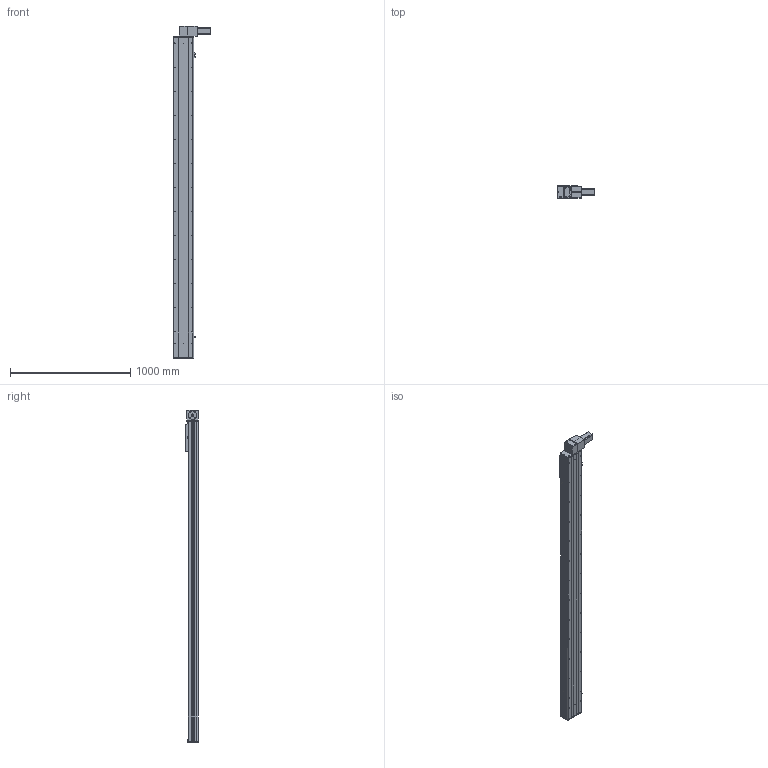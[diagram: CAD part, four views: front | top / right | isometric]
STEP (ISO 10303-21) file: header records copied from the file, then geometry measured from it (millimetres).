
FILE_DESCRIPTION (( 'STEP AP203' ), '1' );
FILE_NAME ('Y170CB-D105-S2350-BD-P400W.STEP', '2020-02-20T09:07:59', ( '微软用户' ), ( '微软中国' ), 'SwSTEP 2.0', 'SolidWorks 2017', '' );
FILE_SCHEMA (( 'CONFIG_CONTROL_DESIGN' ));
Length unit declared in the file: millimetre
Products named in the file (16): Y100-135俋离換覜ん--; 70CB-掛极-; Y170CB-陔俋离換覜結え---; --70CB --喘謫眊楊擘啣-; Y1埴倛裔; 70CB-耜裔啣-; 70B喘謫眊----; 70C--詩湍揤踡え-; 0B薊粣ん眊-400W--; 70CB--耜裔; Y170CB-D105-S2350-BD-P400W; 70C-雄赽釱-奻-; 0C--雄赽釱俋欶-170; B-源倛裔啣; 70CB-詩湍--; san松下电机400不带刹车----
Assembly tree (19 placements, depth 2):
  Y170CB-D105-S2350-BD-P400W
    B-源倛裔啣
    san松下电机400不带刹车----
    70CB-掛极-
    --70CB --喘謫眊楊擘啣-
    70CB-耜裔啣-  x2
    70C--詩湍揤踡え-  x2
    70CB--耜裔
    70C-雄赽釱-奻-
    0C--雄赽釱俋欶-170
    70CB-詩湍--
    Y100-135俋离換覜ん--  x3
    Y170CB-陔俋离換覜結え---
    Y1埴倛裔
    70B喘謫眊----
    0B薊粣ん眊-400W--
Bounding box: 313.5 x 107 x 2766 mm (x, y, z)
Volume: 12141964.2 mm3; surface area: 4251348.4 mm2
Topology: 19 solids, 19 shells, 976 faces, 2594 edges, 1720 vertices
Faces by surface type: cylinder 530, plane 422, cone 24
Entity records: 30763 total; most frequent: CARTESIAN_POINT 5746, DIRECTION 5007, ORIENTED_EDGE 4670, EDGE_CURVE 2335, AXIS2_PLACEMENT_3D 1861, VERTEX_POINT 1550, LINE 1285, VECTOR 1285
